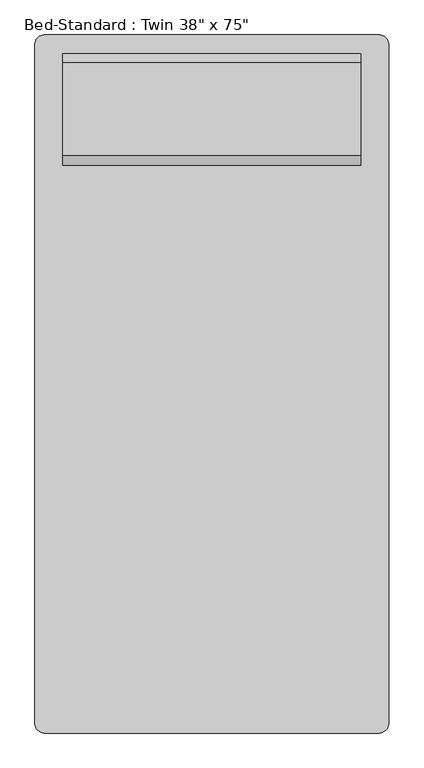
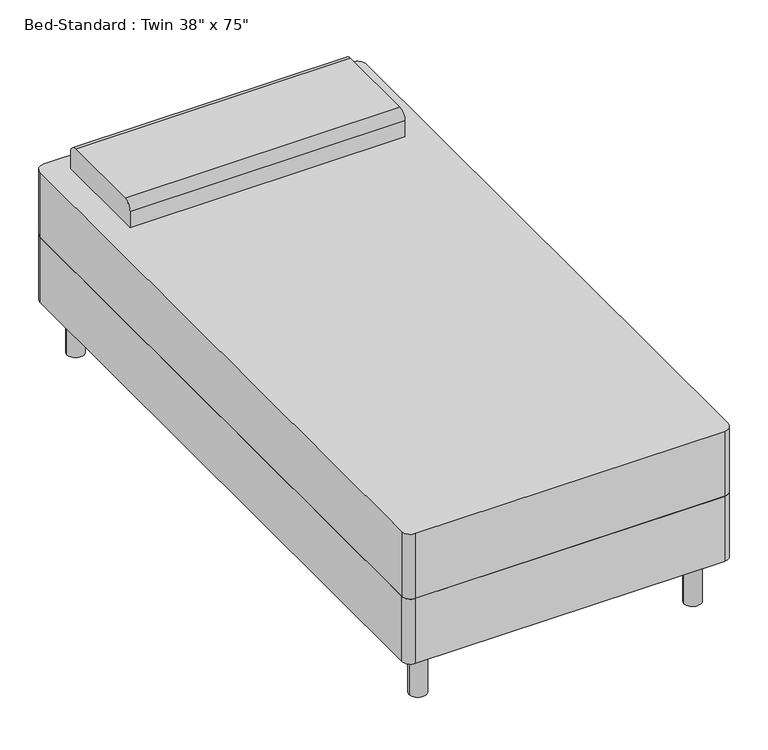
"""IFC4 building model written with IfcOpenShell, lengths in millimetres: furniture geometry."""

from ifc_helpers import new_model, si_unit, point, frame, frame_2d, origin, origin_with_axes, place, context, project, spatial, polyline, circle_curve, trimmed, segment, composite_curve, outline, extrude, source, transform, mapped, element, save


def furniture_a07fae8b(model_context):
    return source(origin(), model_context, "Body", "SweptSolid", [
        extrude(outline(composite_curve([segment(polyline([(-211.1114754, -972.695082), (-211.1114754, 881.504918)]), True, "CONTINUOUS"), segment(trimmed(circle_curve(frame_2d((-185.7114754, 881.504918)), 25.4), [point((-211.1114754, 881.504918))], [point((-185.7114754, 906.904918))], False, "CARTESIAN"), True, "CONTINUOUS"), segment(polyline([(-185.7114754, 906.904918), (728.6885246, 906.904918)]), True, "CONTINUOUS"), segment(trimmed(circle_curve(frame_2d((728.6885246, 881.504918)), 25.4), [point((728.6885246, 906.904918))], [point((754.0885246, 881.504918))], False, "CARTESIAN"), True, "CONTINUOUS"), segment(polyline([(754.0885246, 881.504918), (754.0885246, -972.695082)]), True, "CONTINUOUS"), segment(trimmed(circle_curve(frame_2d((728.6885246, -972.695082)), 25.4), [point((754.0885246, -972.695082))], [point((728.6885246, -998.095082))], False, "CARTESIAN"), True, "CONTINUOUS"), segment(polyline([(728.6885246, -998.095082), (-185.7114754, -998.095082)]), True, "CONTINUOUS"), segment(trimmed(circle_curve(frame_2d((-185.7114754, -972.695082)), 25.4), [point((-185.7114754, -998.095082))], [point((-211.1114754, -972.695082))], False, "CARTESIAN"), True, "CONTINUOUS")], self_intersect=False)), frame((0.0, 0.0, 152.4), z_axis=(0.0, 0.0, 1.0), x_axis=(1.0, 0.0, 0.0)), (0.0, 0.0, 1.0), 203.2),
        extrude(outline(composite_curve([segment(polyline([(551.304918, 558.8), (551.304918, 609.6)]), True, "CONTINUOUS"), segment(trimmed(circle_curve(frame_2d((576.704918, 609.6)), 25.4), [point((551.304918, 609.6))], [point((576.704918, 635.0))], False, "CARTESIAN"), True, "CONTINUOUS"), segment(polyline([(576.704918, 635.0), (830.704918, 635.0)]), True, "CONTINUOUS"), segment(trimmed(circle_curve(frame_2d((830.704918, 609.6)), 25.4), [point((830.704918, 635.0))], [point((856.104918, 609.6))], False, "CARTESIAN"), True, "CONTINUOUS"), segment(polyline([(856.104918, 609.6), (856.104918, 558.8), (551.304918, 558.8)]), True, "CONTINUOUS")], self_intersect=False)), frame((-134.9114754, 0.0, 0.0), z_axis=(1.0, 0.0, 0.0), x_axis=(0.0, 1.0, 0.0)), (0.0, 0.0, 1.0), 812.8),
        extrude(outline(composite_curve([segment(trimmed(circle_curve(frame_2d((-134.9114754, 830.704918)), 25.4), [point((-160.3114754, 830.704918))], [point((-109.5114754, 830.704918))], False, "CARTESIAN"), True, "CONTINUOUS"), segment(trimmed(circle_curve(frame_2d((-134.9114754, 830.704918)), 25.4), [point((-109.5114754, 830.704918))], [point((-160.3114754, 830.704918))], False, "CARTESIAN"), True, "CONTINUOUS")], self_intersect=False)), origin_with_axes(), (0.0, 0.0, 1.0), 152.4),
        extrude(outline(composite_curve([segment(trimmed(circle_curve(frame_2d((677.8885246, 830.704918)), 25.4), [point((652.4885246, 830.704918))], [point((703.2885246, 830.704918))], False, "CARTESIAN"), True, "CONTINUOUS"), segment(trimmed(circle_curve(frame_2d((677.8885246, 830.704918)), 25.4), [point((703.2885246, 830.704918))], [point((652.4885246, 830.704918))], False, "CARTESIAN"), True, "CONTINUOUS")], self_intersect=False)), origin_with_axes(), (0.0, 0.0, 1.0), 152.4),
        extrude(outline(composite_curve([segment(trimmed(circle_curve(frame_2d((677.8885246, -921.895082)), 25.4), [point((652.4885246, -921.895082))], [point((703.2885246, -921.895082))], False, "CARTESIAN"), True, "CONTINUOUS"), segment(trimmed(circle_curve(frame_2d((677.8885246, -921.895082)), 25.4), [point((703.2885246, -921.895082))], [point((652.4885246, -921.895082))], False, "CARTESIAN"), True, "CONTINUOUS")], self_intersect=False)), origin_with_axes(), (0.0, 0.0, 1.0), 152.4),
        extrude(outline(composite_curve([segment(trimmed(circle_curve(frame_2d((-134.9114754, -921.895082)), 25.4), [point((-160.3114754, -921.895082))], [point((-109.5114754, -921.895082))], False, "CARTESIAN"), True, "CONTINUOUS"), segment(trimmed(circle_curve(frame_2d((-134.9114754, -921.895082)), 25.4), [point((-109.5114754, -921.895082))], [point((-160.3114754, -921.895082))], False, "CARTESIAN"), True, "CONTINUOUS")], self_intersect=False)), origin_with_axes(), (0.0, 0.0, 1.0), 152.4),
        extrude(outline(composite_curve([segment(polyline([(-185.7114754, 906.904918), (728.6885246, 906.904918)]), True, "CONTINUOUS"), segment(trimmed(circle_curve(frame_2d((728.6885246, 881.504918)), 25.4), [point((728.6885246, 906.904918))], [point((754.0885246, 881.504918))], False, "CARTESIAN"), True, "CONTINUOUS"), segment(polyline([(754.0885246, 881.504918), (754.0885246, -972.695082)]), True, "CONTINUOUS"), segment(trimmed(circle_curve(frame_2d((728.6885246, -972.695082)), 25.4), [point((754.0885246, -972.695082))], [point((728.6885246, -998.095082))], False, "CARTESIAN"), True, "CONTINUOUS"), segment(polyline([(728.6885246, -998.095082), (-185.7114754, -998.095082)]), True, "CONTINUOUS"), segment(trimmed(circle_curve(frame_2d((-185.7114754, -972.695082)), 25.4), [point((-185.7114754, -998.095082))], [point((-211.1114754, -972.695082))], False, "CARTESIAN"), True, "CONTINUOUS"), segment(polyline([(-211.1114754, -972.695082), (-211.1114754, 881.504918)]), True, "CONTINUOUS"), segment(trimmed(circle_curve(frame_2d((-185.7114754, 881.504918)), 25.4), [point((-211.1114754, 881.504918))], [point((-185.7114754, 906.904918))], False, "CARTESIAN"), True, "CONTINUOUS")], self_intersect=False)), frame((0.0, 0.0, 355.6), z_axis=(0.0, 0.0, 1.0), x_axis=(1.0, 0.0, 0.0)), (0.0, 0.0, 1.0), 203.2),
    ])


if __name__ == "__main__":
    model = new_model("IFC4")
    model_context = context("Model", 3, world=origin())
    ifc_project = project(units=[si_unit("LENGTHUNIT", "METRE", prefix="MILLI")], contexts=[model_context])
    site = spatial("IfcSite", under=ifc_project)
    building = spatial("IfcBuilding", under=site)
    placement = place(None, origin())
    furniture_shape = furniture_a07fae8b(model_context)
    element("IfcFurniture", 1, ObjectType="Bed-Standard : Twin 38\" x 75\"", at=placement, inside=building, context=model_context, shape_type="MappedRepresentation", body=[
        mapped(furniture_shape, transform((0.0, 0.0, 0.0), x_axis=(1.0, 0.0, 0.0), y_axis=(0.0, 1.0, 0.0), z_axis=(0.0, 0.0, 1.0))),
    ])
    save(model, "model.ifc")
